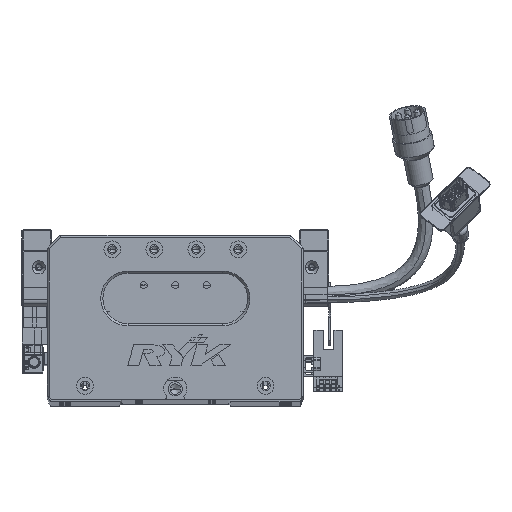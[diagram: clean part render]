
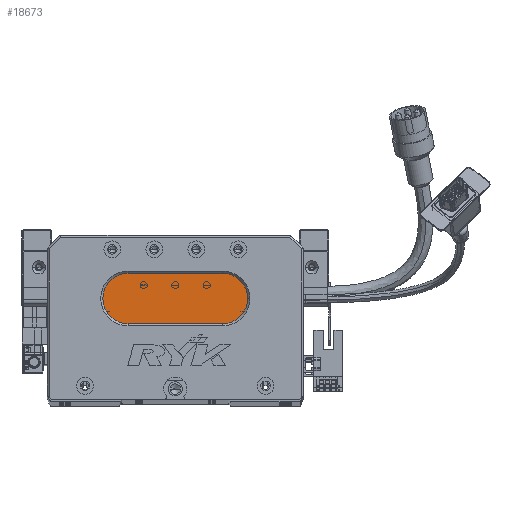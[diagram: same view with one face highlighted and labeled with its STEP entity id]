
A CAD part, top view. The second image highlights one B-rep face of the part: STEP entity #18673.
In plain terms, the highlighted planar face has unit normal (0, 0, 1) as drawn and (0, 0, -1) by its records, which use the part's own axes.
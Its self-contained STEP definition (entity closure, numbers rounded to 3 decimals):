
#156 = VECTOR ( 'NONE', #71668, 1000. ) ;
#1324 = ORIENTED_EDGE ( 'NONE', *, *, #49500, .T. ) ;
#3664 = DIRECTION ( 'NONE',  ( -1., 0., 0. ) ) ;
#4556 = EDGE_CURVE ( 'NONE', #39715, #35786, #27421, .T. ) ;
#4758 = CARTESIAN_POINT ( 'NONE',  ( 38.5, 48., 13. ) ) ;
#6960 = LINE ( 'NONE', #78230, #70606 ) ;
#11516 = DIRECTION ( 'NONE',  ( 1., 0., 0. ) ) ;
#15489 = ORIENTED_EDGE ( 'NONE', *, *, #4556, .T. ) ;
#16997 = EDGE_CURVE ( 'NONE', #61155, #39715, #6960, .T. ) ;
#17148 = CARTESIAN_POINT ( 'NONE',  ( 38.5, 36., 13. ) ) ;
#18673 = ADVANCED_FACE ( 'NONE', ( #47696 ), #44970, .T. ) ;
#20852 = CARTESIAN_POINT ( 'NONE',  ( 26.5, 48., 13. ) ) ;
#26042 = CARTESIAN_POINT ( 'NONE',  ( 38.5, 48., 13. ) ) ;
#27421 = CIRCLE ( 'NONE', #76659, 12. ) ;
#28584 = VERTEX_POINT ( 'NONE', #17148 ) ;
#29795 = CARTESIAN_POINT ( 'NONE',  ( 83.5, 60., 13. ) ) ;
#30201 = DIRECTION ( 'NONE',  ( 0., 0., -1. ) ) ;
#35032 = CARTESIAN_POINT ( 'NONE',  ( 38.5, 60., 13. ) ) ;
#35786 = VERTEX_POINT ( 'NONE', #54197 ) ;
#36743 = AXIS2_PLACEMENT_3D ( 'NONE', #79623, #30201, #3664 ) ;
#39715 = VERTEX_POINT ( 'NONE', #29795 ) ;
#41784 = DIRECTION ( 'NONE',  ( -1., 0., 0. ) ) ;
#43317 = LINE ( 'NONE', #79479, #156 ) ;
#44970 = PLANE ( 'NONE',  #36743 ) ;
#46076 = DIRECTION ( 'NONE',  ( -1., 0., 0. ) ) ;
#46400 = EDGE_CURVE ( 'NONE', #28584, #67966, #51448, .T. ) ;
#47696 = FACE_OUTER_BOUND ( 'NONE', #82373, .T. ) ;
#49500 = EDGE_CURVE ( 'NONE', #35786, #28584, #43317, .T. ) ;
#51448 = CIRCLE ( 'NONE', #54400, 12. ) ;
#53592 = DIRECTION ( 'NONE',  ( 0., 0., -1. ) ) ;
#54197 = CARTESIAN_POINT ( 'NONE',  ( 83.5, 36., 13. ) ) ;
#54400 = AXIS2_PLACEMENT_3D ( 'NONE', #4758, #53592, #46076 ) ;
#56818 = DIRECTION ( 'NONE',  ( 0., 0., -1. ) ) ;
#58566 = ORIENTED_EDGE ( 'NONE', *, *, #46400, .T. ) ;
#60077 = DIRECTION ( 'NONE',  ( -1., 0., 0. ) ) ;
#60570 = ORIENTED_EDGE ( 'NONE', *, *, #85273, .T. ) ;
#61155 = VERTEX_POINT ( 'NONE', #35032 ) ;
#64213 = CIRCLE ( 'NONE', #71294, 12. ) ;
#67308 = DIRECTION ( 'NONE',  ( 0., 0., -1. ) ) ;
#67966 = VERTEX_POINT ( 'NONE', #20852 ) ;
#70606 = VECTOR ( 'NONE', #11516, 1000. ) ;
#71294 = AXIS2_PLACEMENT_3D ( 'NONE', #26042, #67308, #60077 ) ;
#71668 = DIRECTION ( 'NONE',  ( -1., 0., 0. ) ) ;
#76659 = AXIS2_PLACEMENT_3D ( 'NONE', #83351, #56818, #41784 ) ;
#78230 = CARTESIAN_POINT ( 'NONE',  ( 83.5, 60., 13. ) ) ;
#78291 = ORIENTED_EDGE ( 'NONE', *, *, #16997, .T. ) ;
#79479 = CARTESIAN_POINT ( 'NONE',  ( 83.5, 36., 13. ) ) ;
#79623 = CARTESIAN_POINT ( 'NONE',  ( 83.5, 48., 13. ) ) ;
#82373 = EDGE_LOOP ( 'NONE', ( #15489, #1324, #58566, #60570, #78291 ) ) ;
#83351 = CARTESIAN_POINT ( 'NONE',  ( 83.5, 48., 13. ) ) ;
#85273 = EDGE_CURVE ( 'NONE', #67966, #61155, #64213, .T. ) ;
